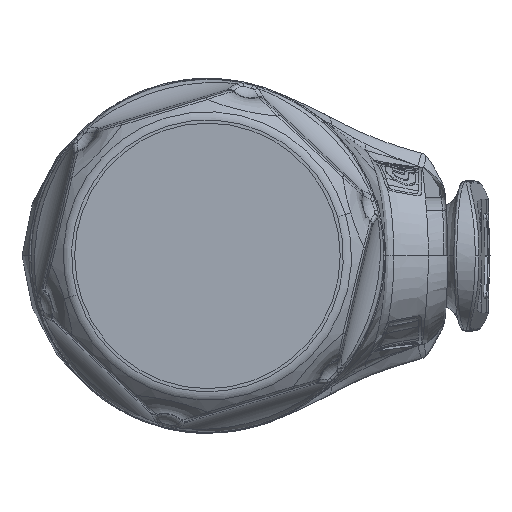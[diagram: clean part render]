
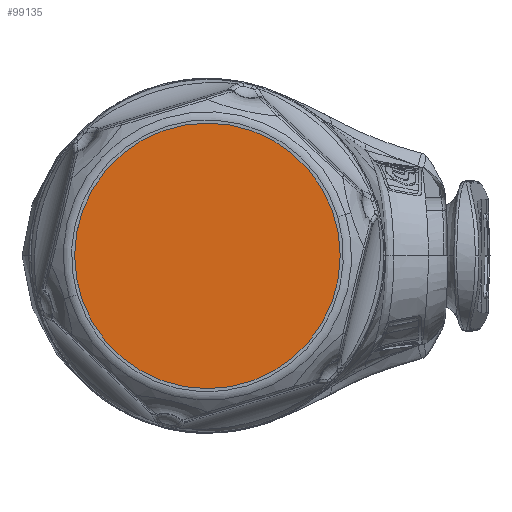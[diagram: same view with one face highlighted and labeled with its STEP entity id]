
A CAD part, left-side view. The second image highlights one B-rep face of the part: STEP entity #99135.
In plain terms, the highlighted planar face has unit normal (-1, 0, 0).
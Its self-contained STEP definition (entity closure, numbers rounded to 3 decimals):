
#2266 = CARTESIAN_POINT ( 'NONE',  ( -59.801, 0., -10.765 ) ) ;
#7425 = AXIS2_PLACEMENT_3D ( 'NONE', #16497, #32232, #88124 ) ;
#8985 = ORIENTED_EDGE ( 'NONE', *, *, #35476, .F. ) ;
#12833 = CIRCLE ( 'NONE', #64726, 10.765 ) ;
#14012 = CARTESIAN_POINT ( 'NONE',  ( -59.801, 0., 10.765 ) ) ;
#15896 = EDGE_CURVE ( 'NONE', #55595, #45373, #12833, .T. ) ;
#16497 = CARTESIAN_POINT ( 'NONE',  ( -59.801, -10.765, 0. ) ) ;
#18229 = DIRECTION ( 'NONE',  ( 1., 0., 0. ) ) ;
#18480 = FACE_OUTER_BOUND ( 'NONE', #71902, .T. ) ;
#20916 = DIRECTION ( 'NONE',  ( 1., 0., 0. ) ) ;
#32232 = DIRECTION ( 'NONE',  ( 1., 0., 0. ) ) ;
#33494 = ORIENTED_EDGE ( 'NONE', *, *, #15896, .F. ) ;
#35476 = EDGE_CURVE ( 'NONE', #45373, #55595, #77905, .T. ) ;
#36148 = CARTESIAN_POINT ( 'NONE',  ( -59.801, 0., 0. ) ) ;
#37546 = AXIS2_PLACEMENT_3D ( 'NONE', #36148, #20916, #44292 ) ;
#44292 = DIRECTION ( 'NONE',  ( 0., 0., -1. ) ) ;
#45373 = VERTEX_POINT ( 'NONE', #14012 ) ;
#49259 = DIRECTION ( 'NONE',  ( 0., 0., -1. ) ) ;
#55595 = VERTEX_POINT ( 'NONE', #2266 ) ;
#64726 = AXIS2_PLACEMENT_3D ( 'NONE', #79257, #18229, #49259 ) ;
#71902 = EDGE_LOOP ( 'NONE', ( #33494, #8985 ) ) ;
#77905 = CIRCLE ( 'NONE', #37546, 10.765 ) ;
#79257 = CARTESIAN_POINT ( 'NONE',  ( -59.801, 0., 0. ) ) ;
#80010 = PLANE ( 'NONE',  #7425 ) ;
#88124 = DIRECTION ( 'NONE',  ( 0., 0., -1. ) ) ;
#99135 = ADVANCED_FACE ( 'NONE', ( #18480 ), #80010, .F. ) ;
